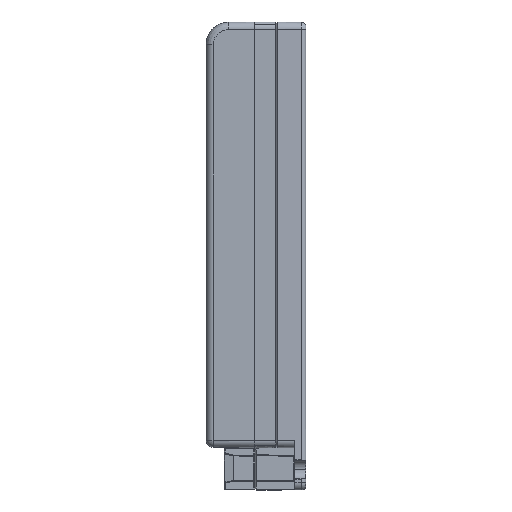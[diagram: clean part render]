
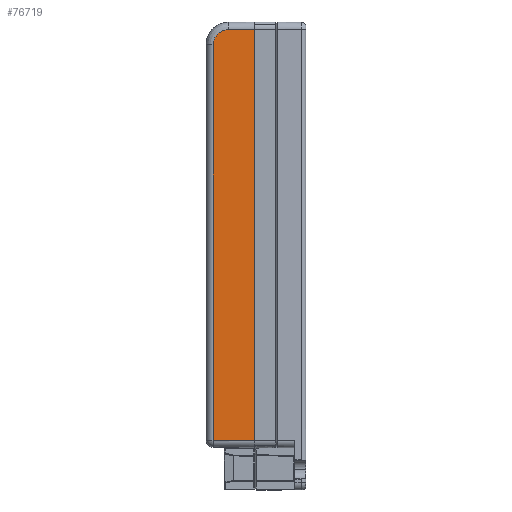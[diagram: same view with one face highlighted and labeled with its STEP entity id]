
A CAD part, left-side view. The second image highlights one B-rep face of the part: STEP entity #76719.
In plain terms, the highlighted planar face has unit normal (-1, 0.009, 0).
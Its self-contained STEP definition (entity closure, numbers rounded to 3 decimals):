
#5339 = LINE ( 'NONE', #123241, #55921 ) ;
#10555 = CARTESIAN_POINT ( 'NONE',  ( -38.246, 11.3, 103. ) ) ;
#12815 = DIRECTION ( 'NONE',  ( 0.009, 1., -0.009 ) ) ;
#14295 = AXIS2_PLACEMENT_3D ( 'NONE', #10555, #81208, #20709 ) ;
#15115 = DIRECTION ( 'NONE',  ( 0., 0., -1. ) ) ;
#16019 = VERTEX_POINT ( 'NONE', #21056 ) ;
#18581 = CARTESIAN_POINT ( 'NONE',  ( -38.246, 11.3, 103. ) ) ;
#20364 = LINE ( 'NONE', #18581, #61413 ) ;
#20709 = DIRECTION ( 'NONE',  ( -0.009, -1., 0. ) ) ;
#21056 = CARTESIAN_POINT ( 'NONE',  ( -38.246, 11.3, 101.4 ) ) ;
#23516 = EDGE_CURVE ( 'NONE', #54548, #45366, #28548, .T. ) ;
#25391 = VECTOR ( 'NONE', #64679, 1000. ) ;
#27651 = ORIENTED_EDGE ( 'NONE', *, *, #54777, .T. ) ;
#28548 = LINE ( 'NONE', #104868, #25391 ) ;
#34590 = CARTESIAN_POINT ( 'NONE',  ( -38.166, 20.414, 9.393 ) ) ;
#37170 = CARTESIAN_POINT ( 'NONE',  ( -38.246, 11.3, 10.9 ) ) ;
#45366 = VERTEX_POINT ( 'NONE', #37170 ) ;
#45486 = EDGE_CURVE ( 'NONE', #45366, #16019, #20364, .T. ) ;
#49106 = CARTESIAN_POINT ( 'NONE',  ( -38.166, 20.414, 99.928 ) ) ;
#49673 = ORIENTED_EDGE ( 'NONE', *, *, #98012, .T. ) ;
#52971 = ORIENTED_EDGE ( 'NONE', *, *, #45486, .T. ) ;
#53452 = EDGE_LOOP ( 'NONE', ( #52971, #65503, #27651, #49673, #85999 ) ) ;
#54548 = VERTEX_POINT ( 'NONE', #95548 ) ;
#54777 = EDGE_CURVE ( 'NONE', #94264, #128641, #58570, .T. ) ;
#55694 = LINE ( 'NONE', #34590, #106301 ) ;
#55921 = VECTOR ( 'NONE', #12815, 1000. ) ;
#58570 =( BOUNDED_CURVE ( )  B_SPLINE_CURVE ( 3, ( #129912, #119798, #49106, #69428 ),
 .UNSPECIFIED., .F., .F. ) 
 B_SPLINE_CURVE_WITH_KNOTS ( ( 4, 4 ),
 ( 4.721, 6.283 ),
 .UNSPECIFIED. ) 
 CURVE ( )  GEOMETRIC_REPRESENTATION_ITEM ( )  RATIONAL_B_SPLINE_CURVE ( ( 1., 0.807, 0.807, 1. ) ) 
 REPRESENTATION_ITEM ( '' )  );
#61413 = VECTOR ( 'NONE', #99445, 1000. ) ;
#61575 = EDGE_CURVE ( 'NONE', #16019, #94264, #5339, .T. ) ;
#64679 = DIRECTION ( 'NONE',  ( -0.009, -1., -0.009 ) ) ;
#65503 = ORIENTED_EDGE ( 'NONE', *, *, #61575, .T. ) ;
#69428 = CARTESIAN_POINT ( 'NONE',  ( -38.166, 20.414, 97.95 ) ) ;
#76719 = ADVANCED_FACE ( 'NONE', ( #101552 ), #101160, .T. ) ;
#81208 = DIRECTION ( 'NONE',  ( -1., 0.009, 0. ) ) ;
#85999 = ORIENTED_EDGE ( 'NONE', *, *, #23516, .T. ) ;
#94264 = VERTEX_POINT ( 'NONE', #98013 ) ;
#95548 = CARTESIAN_POINT ( 'NONE',  ( -38.166, 20.414, 10.979 ) ) ;
#98012 = EDGE_CURVE ( 'NONE', #128641, #54548, #55694, .T. ) ;
#98013 = CARTESIAN_POINT ( 'NONE',  ( -38.196, 17.044, 101.35 ) ) ;
#99445 = DIRECTION ( 'NONE',  ( 0., 0., 1. ) ) ;
#101160 = PLANE ( 'NONE',  #14295 ) ;
#101552 = FACE_OUTER_BOUND ( 'NONE', #53452, .T. ) ;
#104868 = CARTESIAN_POINT ( 'NONE',  ( -38.239, 12.104, 10.907 ) ) ;
#106301 = VECTOR ( 'NONE', #15115, 1000. ) ;
#119798 = CARTESIAN_POINT ( 'NONE',  ( -38.178, 19.021, 101.333 ) ) ;
#123241 = CARTESIAN_POINT ( 'NONE',  ( -38.246, 11.286, 101.4 ) ) ;
#127476 = CARTESIAN_POINT ( 'NONE',  ( -38.166, 20.414, 97.95 ) ) ;
#128641 = VERTEX_POINT ( 'NONE', #127476 ) ;
#129912 = CARTESIAN_POINT ( 'NONE',  ( -38.196, 17.044, 101.35 ) ) ;
